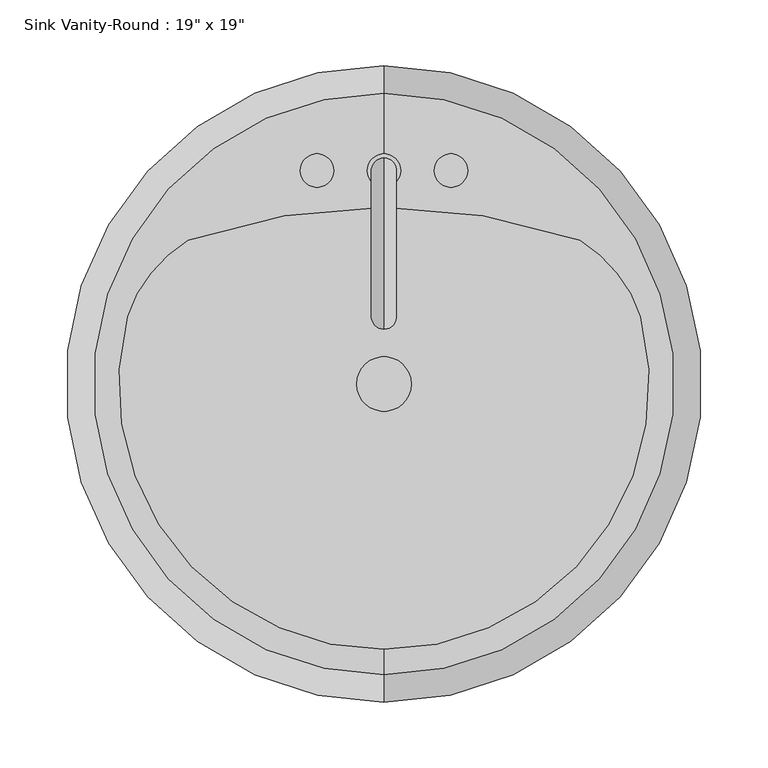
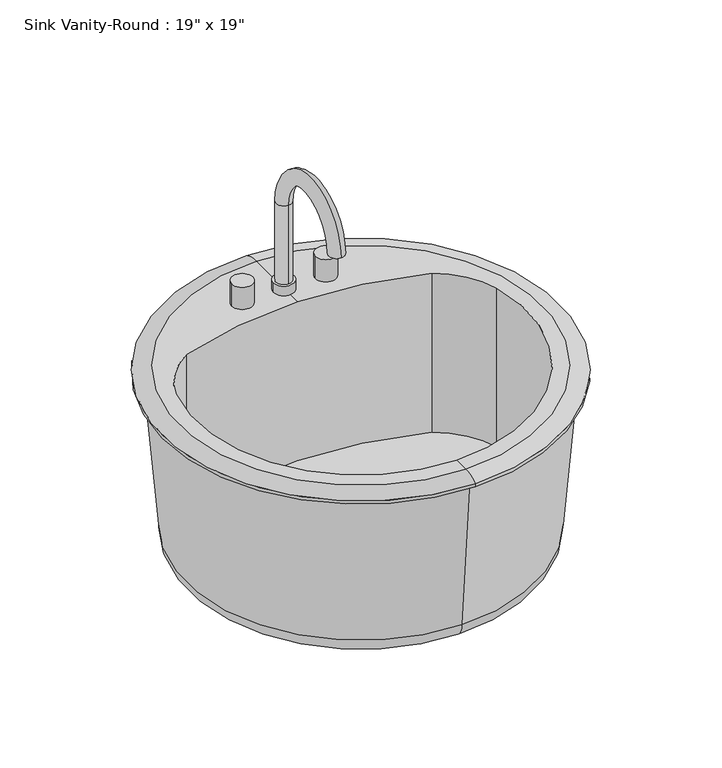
"""IFC4 building model written with IfcOpenShell, lengths in millimetres: flow terminal geometry."""

from ifc_helpers import new_model, si_unit, point, frame, frame_2d, origin, place, context, project, spatial, polyline, circle_curve, ellipse_curve, trimmed, segment, composite_curve, outline, extrude, source, transform, mapped, element, save
from ifc_brep_helpers import plane_surface, cylinder_surface, revolved_surface, advanced_brep


def flow_terminal_63863e58(model_context):
    return source(origin(), model_context, "Body", "SolidModel", [
        advanced_brep(
        [(96.6517406, 237.5677185, 796.925), (96.6517406, 256.6177185, 796.925), (96.6517406, 237.5677185, 909.6375), (96.6517406, 256.6177185, 909.6375), (96.6517406, 145.7775038, 909.6375), (96.6517406, 126.7275038, 909.6375)],
        [
            (0, 1, circle_curve(frame((96.6517406, 247.0927185, 796.925), z_axis=(0.0, 0.0, -1.0), x_axis=(0.0, 1.0, 0.0)), 9.525)),
            (1, 0, circle_curve(frame((96.6517406, 247.0927185, 796.925), z_axis=(0.0, 0.0, -1.0), x_axis=(0.0, 1.0, 0.0)), 9.525)),
            (0, 2),
            (2, 3, circle_curve(frame((96.6517406, 247.0927185, 909.6375), z_axis=(0.0, 0.0, -1.0), x_axis=(0.0, 1.0, 0.0)), 9.525)),
            (3, 1),
            (3, 2, circle_curve(frame((96.6517406, 247.0927185, 909.6375), z_axis=(0.0, 0.0, -1.0), x_axis=(0.0, 1.0, 0.0)), 9.525)),
            (4, 5, circle_curve(frame((96.6517406, 136.2525038, 909.6375), z_axis=(0.0, 0.0, -1.0), x_axis=(0.0, -1.0, 0.0)), 9.525)),
            (5, 4, circle_curve(frame((96.6517406, 136.2525038, 909.6375), z_axis=(0.0, 0.0, -1.0), x_axis=(0.0, -1.0, 0.0)), 9.525)),
            (2, 4, circle_curve(frame((96.6517406, 191.6726112, 909.6375), z_axis=(1.0, 0.0, 0.0), x_axis=(0.0, 1.0, 0.0)), 45.8951073)),
            (5, 3, circle_curve(frame((96.6517406, 191.6726112, 909.6375), z_axis=(-1.0, 0.0, 0.0), x_axis=(0.0, 1.0, 0.0)), 64.9451073)),
        ],
        [
            plane_surface(frame((96.6517406, 237.5677185, 796.925), z_axis=(0.0, 0.0, -1.0), x_axis=(1.0, 0.0, 0.0))),
            cylinder_surface(frame((96.6517406, 247.0927185, 796.925), z_axis=(0.0, 0.0, -1.0), x_axis=(0.0, 1.0, 0.0)), 9.525),
            plane_surface(frame((96.6517406, 191.6726112, 909.6375), z_axis=(0.0, 0.0, -1.0), x_axis=(0.0, -1.0, 0.0))),
            revolved_surface(trimmed(ellipse_curve(frame((96.6517406, 247.0927185, 909.6375), z_axis=(0.0, 0.0, -1.0), x_axis=(0.0, 1.0, 0.0)), 9.525, 9.525), [point((96.6517406, 237.5677185, 909.6375))], [point((96.6517406, 256.6177185, 909.6375))], True, "CARTESIAN"), (96.6517406, 191.6726112, 909.6375), (1.0, 0.0, 0.0)),
            revolved_surface(trimmed(ellipse_curve(frame((96.6517406, 247.0927185, 909.6375), z_axis=(0.0, 0.0, -1.0), x_axis=(0.0, 1.0, 0.0)), 9.525, 9.525), [point((96.6517406, 256.6177185, 909.6375))], [point((96.6517406, 237.5677185, 909.6375))], True, "CARTESIAN"), (96.6517406, 191.6726112, 909.6375), (1.0, 0.0, 0.0)),
        ],
        [
            (0, [[1, 2]]),
            (1, [[-1, 3, 4, 5]]),
            (1, [[-2, -5, 6, -3]]),
            (2, [[7, 8]]),
            (3, [[-4, 9, -8, 10]]),
            (4, [[-6, -10, -7, -9]]),
        ],
    ),
        extrude(outline(composite_curve([segment(trimmed(circle_curve(frame_2d((96.6517406, 247.0927185)), 12.7), [point((83.9517406, 247.0927185))], [point((109.3517406, 247.0927185))], False, "CARTESIAN"), True, "CONTINUOUS"), segment(trimmed(circle_curve(frame_2d((96.6517406, 247.0927185)), 12.7), [point((109.3517406, 247.0927185))], [point((83.9517406, 247.0927185))], False, "CARTESIAN"), True, "CONTINUOUS")], self_intersect=False)), frame((0.0, 0.0, 796.925), z_axis=(0.0, 0.0, 1.0), x_axis=(1.0, 0.0, 0.0)), (0.0, 0.0, 1.0), 12.2352909),
        extrude(outline(composite_curve([segment(trimmed(circle_curve(frame_2d((45.8517406, 247.0927185)), 12.7), [point((33.1517406, 247.0927185))], [point((58.5517406, 247.0927185))], False, "CARTESIAN"), True, "CONTINUOUS"), segment(trimmed(circle_curve(frame_2d((45.8517406, 247.0927185)), 12.7), [point((58.5517406, 247.0927185))], [point((33.1517406, 247.0927185))], False, "CARTESIAN"), True, "CONTINUOUS")], self_intersect=False)), frame((0.0, 0.0, 796.925), z_axis=(0.0, 0.0, 1.0), x_axis=(1.0, 0.0, 0.0)), (0.0, 0.0, 1.0), 28.575),
        extrude(outline(composite_curve([segment(trimmed(circle_curve(frame_2d((147.4517406, 247.0927185)), 12.7), [point((134.7517406, 247.0927185))], [point((160.1517406, 247.0927185))], False, "CARTESIAN"), True, "CONTINUOUS"), segment(trimmed(circle_curve(frame_2d((147.4517406, 247.0927185)), 12.7), [point((160.1517406, 247.0927185))], [point((134.7517406, 247.0927185))], False, "CARTESIAN"), True, "CONTINUOUS")], self_intersect=False)), frame((0.0, 0.0, 796.925), z_axis=(0.0, 0.0, 1.0), x_axis=(1.0, 0.0, 0.0)), (0.0, 0.0, 1.0), 28.575),
        extrude(outline(composite_curve([segment(trimmed(circle_curve(frame_2d((96.6517406, 85.1677185)), 20.6375), [point((76.0142406, 85.1677185))], [point((117.2892406, 85.1677185))], False, "CARTESIAN"), True, "CONTINUOUS"), segment(trimmed(circle_curve(frame_2d((96.6517406, 85.1677185)), 20.6375), [point((117.2892406, 85.1677185))], [point((76.0142406, 85.1677185))], False, "CARTESIAN"), True, "CONTINUOUS")], self_intersect=False)), frame((0.0, 0.0, 571.5), z_axis=(0.0, 0.0, 1.0), x_axis=(1.0, 0.0, 0.0)), (0.0, 0.0, 1.0), 21.1842611),
        advanced_brep(
        [(96.6517406, -135.3870093, 796.925), (96.6517406, 305.7224463, 796.925), (96.6517406, 326.4677185, 791.36875), (96.6517406, -156.1322815, 791.36875), (96.6517406, -116.2405705, 796.925), (-98.1703414, 136.2525038, 796.925), (-52.1534933, 194.0861398, 796.925), (96.6517406, 219.2662048, 796.925), (245.4569744, 194.0861398, 796.925), (291.4738225, 136.2525038, 796.925), (96.6517406, -107.1264028, 571.5), (96.6517406, 277.4618398, 571.5), (96.6517406, 85.1677185, 571.5), (96.6517406, -127.6827361, 592.6842611), (96.6517406, 298.0181731, 592.6842611), (96.6517406, -144.2260315, 787.4), (96.6517406, 314.5614685, 787.4), (96.6517406, -156.1322815, 787.4), (96.6517406, 326.4677185, 787.4), (245.4569744, 194.0861398, 592.6842611), (-52.1534933, 194.0861398, 592.6842611), (-98.1703414, 136.2525038, 592.6842611), (291.4738225, 136.2525038, 592.6842611)],
        [
            (0, 1, circle_curve(frame((96.6517406, 85.1677185, 796.925), z_axis=(0.0, 0.0, -1.0), x_axis=(0.0, 1.0, 0.0)), 220.5547278)),
            (1, 2, circle_curve(frame((96.6517406, 309.4374616, 769.289434), z_axis=(-1.0, 0.0, 0.0), x_axis=(0.0, 1.0, 0.0)), 27.8841505)),
            (2, 3, circle_curve(frame((96.6517406, 85.1677185, 791.36875), z_axis=(0.0, 0.0, 1.0), x_axis=(0.0, 1.0, 0.0)), 241.3)),
            (3, 0, circle_curve(frame((96.6517406, -139.1020246, 769.289434), z_axis=(-1.0, 0.0, 0.0), x_axis=(0.0, -1.0, 0.0)), 27.8841505)),
            (1, 0, circle_curve(frame((96.6517406, 85.1677185, 796.925), z_axis=(0.0, 0.0, -1.0), x_axis=(0.0, 1.0, 0.0)), 220.5547278)),
            (3, 2, circle_curve(frame((96.6517406, 85.1677185, 791.36875), z_axis=(0.0, 0.0, 1.0), x_axis=(0.0, 1.0, 0.0)), 241.3)),
            (0, 4),
            (4, 5, circle_curve(frame((96.6517406, 85.1677185, 796.925), z_axis=(0.0, 0.0, -1.0), x_axis=(1.0, 0.0, 0.0)), 201.408289)),
            (5, 6, circle_curve(frame((1.3689689, 104.2755165, 796.925), z_axis=(0.0, 0.0, -1.0), x_axis=(1.0, 0.0, 0.0)), 104.5495194)),
            (6, 7, circle_curve(frame((96.6517406, -233.0168462, 796.925), z_axis=(0.0, 0.0, -1.0), x_axis=(1.0, 0.0, 0.0)), 452.283051)),
            (7, 1),
            (7, 8, circle_curve(frame((96.6517406, -233.0168462, 796.925), z_axis=(0.0, 0.0, -1.0), x_axis=(1.0, 0.0, 0.0)), 452.283051)),
            (8, 9, circle_curve(frame((191.9345122, 104.2755165, 796.925), z_axis=(0.0, 0.0, -1.0), x_axis=(1.0, 0.0, 0.0)), 104.5495194)),
            (9, 4, circle_curve(frame((96.6517406, 85.1677185, 796.925), z_axis=(0.0, 0.0, -1.0), x_axis=(1.0, 0.0, 0.0)), 201.408289)),
            (10, 11, circle_curve(frame((96.6517406, 85.1677185, 571.5), z_axis=(0.0, 0.0, -1.0), x_axis=(0.0, 1.0, 0.0)), 192.2941213)),
            (11, 12),
            (12, 10),
            (11, 10, circle_curve(frame((96.6517406, 85.1677185, 571.5), z_axis=(0.0, 0.0, -1.0), x_axis=(0.0, 1.0, 0.0)), 192.2941213)),
            (10, 13, circle_curve(frame((96.6517406, -107.1264028, 592.0656396), z_axis=(-1.0, 0.0, 0.0), x_axis=(0.0, -1.0, 0.0)), 20.5656396)),
            (13, 14, circle_curve(frame((96.6517406, 85.1677185, 592.6842611), z_axis=(0.0, 0.0, -1.0), x_axis=(0.0, 1.0, 0.0)), 212.8504546)),
            (14, 11, circle_curve(frame((96.6517406, 277.4618398, 592.0656396), z_axis=(-1.0, 0.0, 0.0), x_axis=(0.0, 1.0, 0.0)), 20.5656396)),
            (14, 13, circle_curve(frame((96.6517406, 85.1677185, 592.6842611), z_axis=(0.0, 0.0, -1.0), x_axis=(0.0, 1.0, 0.0)), 212.8504546)),
            (13, 15),
            (15, 16, circle_curve(frame((96.6517406, 85.1677185, 787.4), z_axis=(0.0, 0.0, -1.0), x_axis=(0.0, 1.0, 0.0)), 229.39375)),
            (16, 14),
            (16, 15, circle_curve(frame((96.6517406, 85.1677185, 787.4), z_axis=(0.0, 0.0, -1.0), x_axis=(0.0, 1.0, 0.0)), 229.39375)),
            (15, 17),
            (17, 18, circle_curve(frame((96.6517406, 85.1677185, 787.4), z_axis=(0.0, 0.0, -1.0), x_axis=(0.0, 1.0, 0.0)), 241.3)),
            (18, 16),
            (18, 17, circle_curve(frame((96.6517406, 85.1677185, 787.4), z_axis=(0.0, 0.0, -1.0), x_axis=(0.0, 1.0, 0.0)), 241.3)),
            (2, 18),
            (17, 3),
            (19, 20, circle_curve(frame((96.6517406, -233.0168462, 592.6842611), z_axis=(0.0, 0.0, 1.0), x_axis=(1.0, 0.0, 0.0)), 452.283051)),
            (20, 21, circle_curve(frame((1.3689689, 104.2755165, 592.6842611), z_axis=(0.0, 0.0, 1.0), x_axis=(1.0, 0.0, 0.0)), 104.5495194)),
            (21, 22, circle_curve(frame((96.6517406, 85.1677185, 592.6842611), z_axis=(0.0, 0.0, 1.0), x_axis=(1.0, 0.0, 0.0)), 201.408289)),
            (22, 19, circle_curve(frame((191.9345122, 104.2755165, 592.6842611), z_axis=(0.0, 0.0, 1.0), x_axis=(1.0, 0.0, 0.0)), 104.5495194)),
            (19, 8),
            (6, 20),
            (5, 21),
            (9, 22),
        ],
        [
            revolved_surface(trimmed(ellipse_curve(frame((96.6517406, 309.4374616, 769.289434), z_axis=(1.0, 0.0, 0.0), x_axis=(0.0, 1.0, 0.0)), 27.8841505, 27.8841505), [point((96.6517406, 326.4677185, 791.36875))], [point((96.6517406, 305.7224463, 796.925))], True, "CARTESIAN"), (96.6517406, 85.1677185, 796.925), (0.0, 0.0, 1.0)),
            plane_surface(frame((96.6517406, 85.1677185, 796.925), z_axis=(0.0, 0.0, 1.0), x_axis=(0.0, 1.0, 0.0))),
            plane_surface(frame((96.6517406, 85.1677185, 571.5), z_axis=(0.0, 0.0, -1.0), x_axis=(0.0, 1.0, 0.0))),
            revolved_surface(trimmed(ellipse_curve(frame((96.6517406, 277.4618398, 592.0656396), z_axis=(1.0, 0.0, 0.0), x_axis=(0.0, 1.0, 0.0)), 20.5656396, 20.5656396), [point((96.6517406, 277.4618398, 571.5))], [point((96.6517406, 298.0181731, 592.6842611))], True, "CARTESIAN"), (96.6517406, 85.1677185, 796.925), (0.0, 0.0, 1.0)),
            revolved_surface(polyline([(96.6517406, 298.0181731, 592.6842611), (96.6517406, 314.5614685, 787.4)]), (96.6517406, 85.1677185, 796.925), (0.0, 0.0, 1.0)),
            plane_surface(frame((96.6517406, 85.1677185, 787.4), z_axis=(0.0, 0.0, -1.0), x_axis=(0.0, 1.0, 0.0))),
            cylinder_surface(frame((96.6517406, 85.1677185, 796.925), z_axis=(0.0, 0.0, 1.0), x_axis=(0.0, 1.0, 0.0)), 241.3),
            plane_surface(frame((548.9347916, -233.0168462, 592.6842611), z_axis=(0.0, 0.0, 1.0), x_axis=(0.0, -1.0, 0.0))),
            revolved_surface(polyline([(548.9347916, -233.0168462, 796.925), (548.9347916, -233.0168462, 592.6842611)]), (96.6517406, -233.0168462, 592.6842611), (0.0, 0.0, 1.0)),
            revolved_surface(polyline([(105.91848829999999, 104.2755165, 796.925), (105.91848829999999, 104.2755165, 592.6842611)]), (1.3689689, 104.2755165, 592.6842611), (0.0, 0.0, 1.0)),
            revolved_surface(polyline([(298.0600296, 85.1677185, 796.925), (298.0600296, 85.1677185, 592.6842611)]), (96.6517406, 85.1677185, 592.6842611), (0.0, 0.0, 1.0)),
            revolved_surface(polyline([(296.4840316, 104.2755165, 796.925), (296.4840316, 104.2755165, 592.6842611)]), (191.9345122, 104.2755165, 592.6842611), (0.0, 0.0, 1.0)),
        ],
        [
            (0, [[1, 2, 3, 4]]),
            (0, [[-2, 5, -4, 6]]),
            (1, [[-1, 7, 8, 9, 10, 11]]),
            (1, [[-5, -11, 12, 13, 14, -7]]),
            (2, [[15, 16, 17]]),
            (2, [[-16, 18, -17]]),
            (3, [[-15, 19, 20, 21]]),
            (3, [[-18, -21, 22, -19]]),
            (4, [[-20, 23, 24, 25]]),
            (4, [[-22, -25, 26, -23]]),
            (5, [[-24, 27, 28, 29]]),
            (5, [[-26, -29, 30, -27]]),
            (6, [[-3, 31, -28, 32]]),
            (6, [[-6, -32, -30, -31]]),
            (7, [[33, 34, 35, 36]]),
            (8, [[-33, 37, -12, -10, 38]]),
            (9, [[-34, -38, -9, 39]]),
            (10, [[-35, -39, -8, -14, 40]]),
            (11, [[-36, -40, -13, -37]]),
        ],
    ),
    ])


if __name__ == "__main__":
    model = new_model("IFC4")
    model_context = context("Model", 3, world=origin())
    ifc_project = project(units=[si_unit("LENGTHUNIT", "METRE", prefix="MILLI")], contexts=[model_context])
    site = spatial("IfcSite", under=ifc_project)
    building = spatial("IfcBuilding", under=site)
    placement = place(None, origin())
    flow_terminal_shape = flow_terminal_63863e58(model_context)
    element("IfcFlowTerminal", 1, ObjectType="Sink Vanity-Round : 19\" x 19\"", at=placement, inside=building, context=model_context, shape_type="MappedRepresentation", body=[
        mapped(flow_terminal_shape, transform((0.0, 0.0, 0.0), x_axis=(1.0, 0.0, 0.0), y_axis=(0.0, 1.0, 0.0), z_axis=(0.0, 0.0, 1.0))),
    ])
    save(model, "model.ifc")
